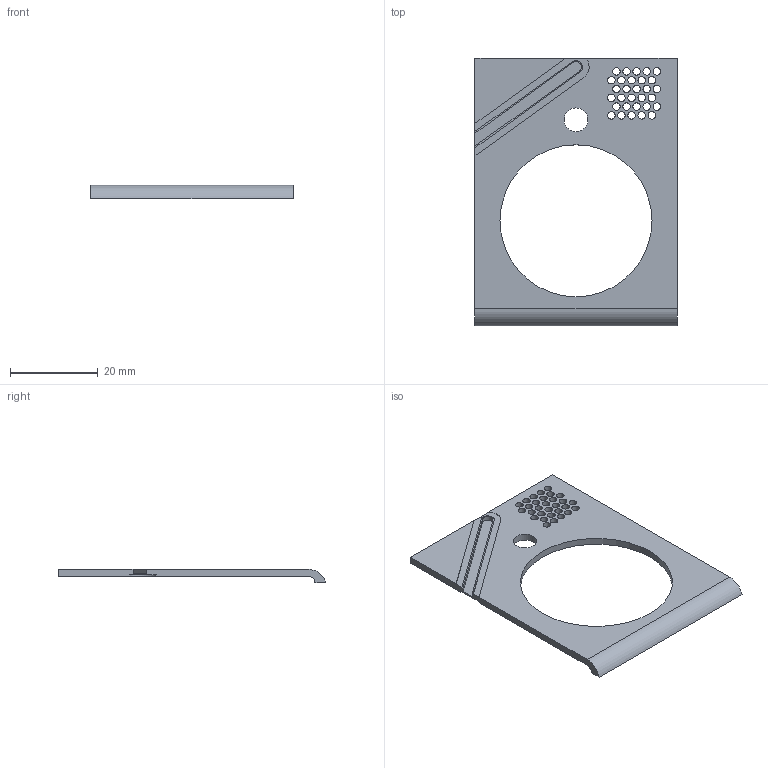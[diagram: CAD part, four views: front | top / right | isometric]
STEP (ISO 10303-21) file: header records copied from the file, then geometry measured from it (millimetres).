
FILE_DESCRIPTION(('Open CASCADE Model'),'2;1');
FILE_NAME('Open CASCADE Shape Model','2026-09-06T11:33:01',('Author'),( 'Open CASCADE'),'Open CASCADE STEP processor 7.7','Open CASCADE 7.7' ,'Unknown');
FILE_SCHEMA(('AUTOMOTIVE_DESIGN { 1 0 10303 214 1 1 1 1 }'));
Length unit declared in the file: millimetre
Products named in the file (1): Open CASCADE STEP translator 7.7 8
Bounding box: 46 x 60.87 x 3 mm (x, y, z)
Volume: 2789.6 mm3; surface area: 4433.7 mm2
Topology: 1 solids, 1 shells, 56 faces, 162 edges, 108 vertices
Faces by surface type: cylinder 39, plane 17
Full cylindrical faces by diameter (mm): 1.7 x30, 5.4 x1, 34.6 x1
Entity records: 4290 total; most frequent: CARTESIAN_POINT 1137, DIRECTION 552, ORIENTED_EDGE 324, PCURVE 324, DEFINITIONAL_REPRESENTATION 324, LINE 276, VECTOR 276, EDGE_CURVE 162
